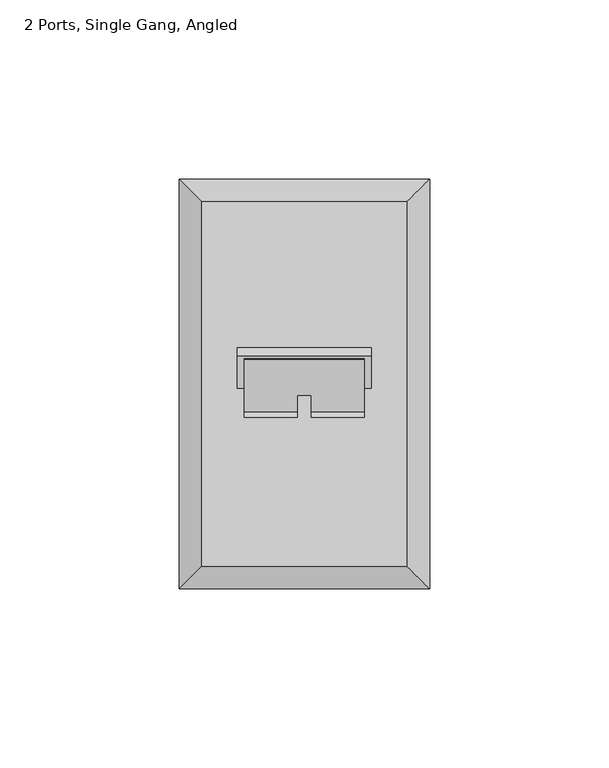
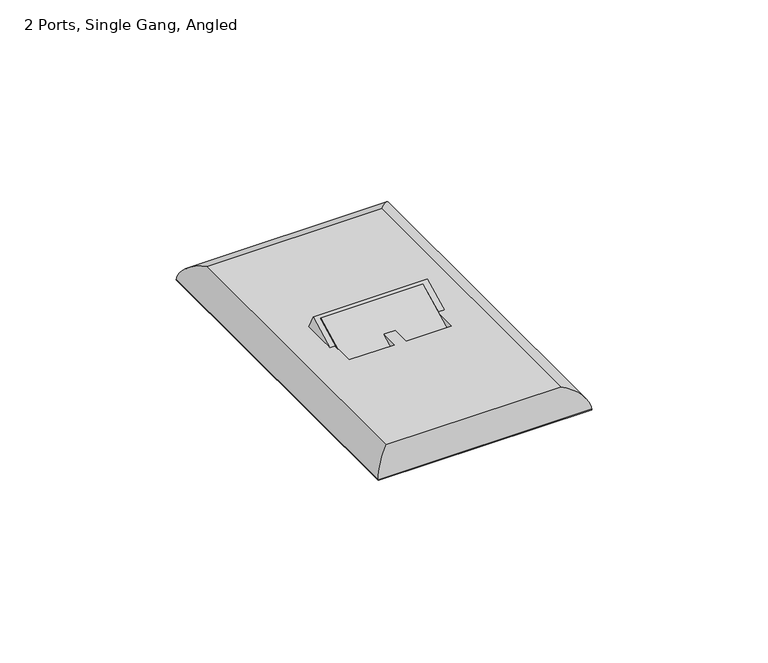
"""IFC4 building model written with IfcOpenShell, lengths in millimetres: electric appliance geometry, Data_Device-Work_Area-Leviton-QuickPort-Wallplate : 2 Ports, Single Gang, Angled."""

from ifc_helpers import new_model, si_unit, frame, origin, origin_with_axes, place, context, project, spatial, polyline, ellipse_curve, outline, extrude, faceted_brep, source, transform, mapped, element, save
from ifc_brep_helpers import plane_surface, cylinder_surface, advanced_brep


def electric_appliance_2_ports_single_gang_angled_da43e9ed(model_context):
    return source(origin(), model_context, "Body", "SolidModel", [
        extrude(outline(polyline([(0.0, -16.5099999), (0.0, 0.0), (33.401, 0.0), (33.401, -16.5099999), (0.0, -16.5099999)])), frame((-6.3246, 3.3027569, -2.12579), z_axis=(0.0, -0.45585538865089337, 0.8900538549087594), x_axis=(-1.0, 0.0, 0.0)), (0.0, 0.0, 1.0), 6.35),
        advanced_brep(
        [(5.5499, -42.6085, 6.35), (5.5499, 58.9915, 6.35), (-51.6001, 58.9915, 6.35), (-51.6001, -42.6085, 6.35), (-6.3246, 17.5111842, 6.35), (-6.3246, -1.0382552, 6.35), (-21.0566, -1.0382552, 6.35), (-21.0566, 17.5111842, 6.35), (-24.9936, 17.5111842, 6.35), (-24.9936, -1.0382552, 6.35), (-39.7256, -1.0382552, 6.35), (-39.7256, 17.5111842, 6.35), (11.8999, 65.3415, 0.0), (11.8999, -48.9585, 0.0), (-57.9501, -48.9585, 0.0), (-57.9501, 65.3415, 0.0), (-6.3246, 2.2139994, 0.0), (-6.3246, 20.7634387, 0.0), (-21.0566, 20.7634387, 0.0), (-21.0566, 2.2139994, 0.0), (-24.9936, 2.2139994, 0.0), (-24.9936, 20.7634387, 0.0), (-39.7256, 20.7634387, 0.0), (-39.7256, 2.2139994, 0.0), (-57.9501, 65.3415, 0.254), (11.8999, 65.3415, 0.254), (-57.9501, -48.9585, 0.254), (11.8999, -48.9585, 0.254)],
        [
            (0, 1),
            (1, 2),
            (2, 3),
            (3, 0),
            (4, 5),
            (5, 6),
            (6, 7),
            (7, 4),
            (8, 9),
            (9, 10),
            (10, 11),
            (11, 8),
            (12, 13),
            (13, 14),
            (14, 15),
            (15, 12),
            (16, 17),
            (17, 18),
            (18, 19),
            (19, 16),
            (20, 21),
            (21, 22),
            (22, 23),
            (23, 20),
            (15, 24),
            (24, 25),
            (25, 12),
            (14, 26),
            (26, 24),
            (13, 27),
            (27, 26),
            (25, 27),
            (4, 17),
            (16, 5),
            (19, 6),
            (18, 7),
            (8, 21),
            (20, 9),
            (23, 10),
            (22, 11),
            (0, 27, ellipse_curve(frame((5.5499, -42.6085, -0.0052917), z_axis=(0.7071067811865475, 0.7071067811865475, 0.0), x_axis=(0.7071067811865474, -0.7071067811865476, 0.0)), 8.9877397, 6.3552917)),
            (25, 1, ellipse_curve(frame((5.5499, 58.9915, -0.0052917), z_axis=(0.7071067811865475, -0.7071067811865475, 0.0), x_axis=(-0.7071067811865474, -0.7071067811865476, 0.0)), 8.9877397, 6.3552917)),
            (3, 26, ellipse_curve(frame((-51.6001, -42.6085, -0.0052917), z_axis=(0.7071067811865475, -0.7071067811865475, 0.0), x_axis=(-0.7071067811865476, -0.7071067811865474, 0.0)), 8.9877397, 6.3552917)),
            (2, 24, ellipse_curve(frame((-51.6001, 58.9915, -0.0052917), z_axis=(-0.7071067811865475, -0.7071067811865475, 0.0), x_axis=(-0.7071067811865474, 0.7071067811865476, 0.0)), 8.9877397, 6.3552917)),
        ],
        [
            plane_surface(frame((-57.9501, 65.3415, 6.35), z_axis=(0.0, 0.0, 1.0), x_axis=(-1.0, 0.0, 0.0))),
            plane_surface(frame((-57.9501, 65.3415, 0.0), z_axis=(0.0, 0.0, -1.0), x_axis=(1.0, 0.0, 0.0))),
            plane_surface(frame((11.8999, 65.3415, 6.35), z_axis=(0.0, 1.0, 0.0), x_axis=(0.0, 0.0, -1.0))),
            plane_surface(frame((-57.9501, 65.3415, 6.35), z_axis=(-1.0, 0.0, 0.0), x_axis=(0.0, 0.0, -1.0))),
            plane_surface(frame((-57.9501, -48.9585, 6.35), z_axis=(0.0, -1.0, 0.0), x_axis=(0.0, 0.0, -1.0))),
            plane_surface(frame((11.8999, -48.9585, 6.35), z_axis=(1.0, 0.0, 0.0), x_axis=(0.0, 0.0, -1.0))),
            plane_surface(frame((-6.3246, 22.0501005, -2.5121963), z_axis=(-1.0, 0.0, 0.0), x_axis=(0.0, -0.4558553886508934, 0.8900538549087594))),
            plane_surface(frame((-6.3246, 7.3553113, -10.0383688), z_axis=(0.0, 0.8900538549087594, 0.45585538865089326), x_axis=(0.0, -0.45585538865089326, 0.8900538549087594))),
            plane_surface(frame((-21.0566, 7.3553113, -10.0383688), z_axis=(1.0, 0.0, 0.0), x_axis=(0.0, -0.4558553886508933, 0.8900538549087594))),
            plane_surface(frame((-21.0566, 22.0501005, -2.5121963), z_axis=(0.0, -0.8900538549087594, -0.4558553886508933), x_axis=(0.0, -0.4558553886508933, 0.8900538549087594))),
            plane_surface(frame((-24.9936, 22.0501005, -2.5121963), z_axis=(-1.0, 0.0, 0.0), x_axis=(0.0, -0.4558553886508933, 0.8900538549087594))),
            plane_surface(frame((-24.9936, 7.3553113, -10.0383688), z_axis=(0.0, 0.8900538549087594, 0.4558553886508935), x_axis=(0.0, -0.4558553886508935, 0.8900538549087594))),
            plane_surface(frame((-39.7256, 7.3553113, -10.0383688), z_axis=(1.0000000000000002, 0.0, 0.0), x_axis=(0.0, -0.4558553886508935, 0.8900538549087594))),
            plane_surface(frame((-39.7256, 22.0501005, -2.5121963), z_axis=(0.0, -0.8900538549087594, -0.4558553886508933), x_axis=(0.0, -0.4558553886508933, 0.8900538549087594))),
            cylinder_surface(frame((5.5499, 65.3415, -0.0052917), z_axis=(0.0, -1.0, 0.0), x_axis=(1.0, 0.0, 0.0)), 6.3552917),
            cylinder_surface(frame((11.8999, -42.6085, -0.0052917), z_axis=(-1.0, 0.0, 0.0), x_axis=(0.0, -1.0, 0.0)), 6.3552917),
            cylinder_surface(frame((-51.6001, -48.9585, -0.0052917), z_axis=(0.0, 1.0, 0.0), x_axis=(-1.0, 0.0, 0.0)), 6.3552917),
            cylinder_surface(frame((-57.9501, 58.9915, -0.0052917), z_axis=(1.0, 0.0, 0.0), x_axis=(0.0, 1.0, 0.0)), 6.3552917),
        ],
        [
            (0, [[1, 2, 3, 4], [5, 6, 7, 8], [9, 10, 11, 12]]),
            (1, [[13, 14, 15, 16], [17, 18, 19, 20], [21, 22, 23, 24]]),
            (2, [[-16, 25, 26, 27]]),
            (3, [[-15, 28, 29, -25]]),
            (4, [[-14, 30, 31, -28]]),
            (5, [[-13, -27, 32, -30]]),
            (6, [[33, -17, 34, -5]]),
            (7, [[-34, -20, 35, -6]]),
            (8, [[-35, -19, 36, -7]]),
            (9, [[-33, -8, -36, -18]]),
            (10, [[37, -21, 38, -9]]),
            (11, [[-38, -24, 39, -10]]),
            (12, [[-39, -23, 40, -11]]),
            (13, [[-37, -12, -40, -22]]),
            (14, [[41, -32, 42, -1]]),
            (15, [[-41, -4, 43, -31]]),
            (16, [[-43, -3, 44, -29]]),
            (17, [[-42, -26, -44, -2]]),
        ],
    ),
        faceted_brep([(-4.3561, 5.9218102, 6.35), (-4.3561, 18.6437374, 6.35), (-4.3561, 16.0000684, 11.5117419), (-41.6941, 5.9218102, 6.35), (-41.6941, 16.0000684, 11.5117419), (-41.6941, 18.6437374, 6.35), (-6.3246, 15.1028643, 11.0522244), (-6.3246, 17.5111842, 6.35), (-6.3246, 5.9218102, 6.35), (-21.0566, 17.5111842, 6.35), (-21.0566, 15.1028643, 11.0522244), (-21.0566, 5.9218102, 6.35), (-24.9936, 15.1028643, 11.0522244), (-24.9936, 17.5111842, 6.35), (-24.9936, 5.9218102, 6.35), (-39.7256, 17.5111842, 6.35), (-39.7256, 15.1028643, 11.0522244), (-39.7256, 5.9218102, 6.35)], [[[0, 1, 2]], [[3, 4, 5]], [[6, 7, 8]], [[9, 10, 11]], [[7, 6, 10, 9]], [[12, 13, 14]], [[15, 16, 17]], [[13, 12, 16, 15]], [[0, 2, 4, 3, 17, 16, 12, 14, 11, 10, 6, 8]], [[1, 0, 8, 7, 9, 11, 14, 13, 15, 17, 3, 5]], [[2, 1, 5, 4]]]),
        extrude(outline(polyline([(11.6459, 65.0875), (11.6459, -48.7045), (-57.6961, -48.7045), (-57.6961, 65.0875), (11.6459, 65.0875)])), origin_with_axes(), (0.0, 0.0, 1.0), 0.254),
    ])


if __name__ == "__main__":
    model = new_model("IFC4")
    model_context = context("Model", 3, world=origin())
    ifc_project = project(units=[si_unit("LENGTHUNIT", "METRE", prefix="MILLI")], contexts=[model_context])
    site = spatial("IfcSite", under=ifc_project)
    building = spatial("IfcBuilding", under=site)
    placement = place(None, origin())
    electric_appliance_2_ports_single_gang_angled_shape = electric_appliance_2_ports_single_gang_angled_da43e9ed(model_context)
    element("IfcElectricAppliance", 1, ObjectType="Data_Device-Work_Area-Leviton-QuickPort-Wallplate : 2 Ports, Single Gang, Angled", at=placement, inside=building, context=model_context, shape_type="MappedRepresentation", body=[
        mapped(electric_appliance_2_ports_single_gang_angled_shape, transform((0.0, 0.0, 0.0), x_axis=(1.0, 0.0, 0.0), y_axis=(0.0, 1.0, 0.0), z_axis=(0.0, 0.0, 1.0))),
    ])
    save(model, "model.ifc")
